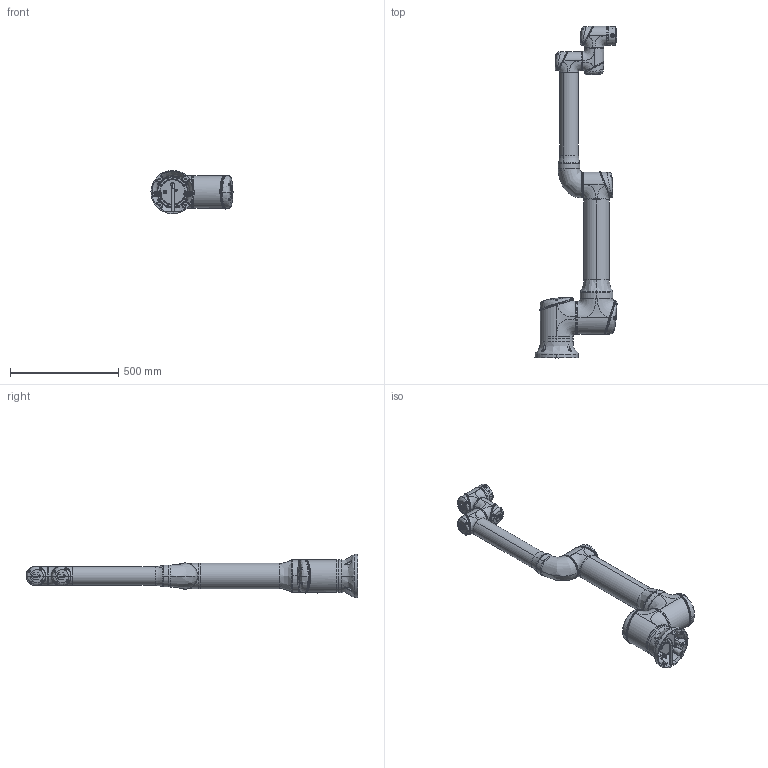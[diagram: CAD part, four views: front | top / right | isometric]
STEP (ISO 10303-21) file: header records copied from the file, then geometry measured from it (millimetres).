
FILE_DESCRIPTION (( 'STEP AP214' ), '1' );
FILE_NAME ('EC_掛极EC612_V1.2.STEP', '2023-05-17T05:54:42', ( '' ), ( '' ), 'SwSTEP 2.0', 'SolidWorks 2017', '' );
FILE_SCHEMA (( 'AUTOMOTIVE_DESIGN' ));
Length unit declared in the file: millimetre
Products named in the file (15): EC612-Base; EC612-Flange; EC612-Link2A_Link2B_J4; EC612-J6; EC612-J2_Link1_J3; EC612-J5; EC_掛极EC612_V1.2; EC612-J1
Assembly tree (7 placements, depth 2):
  EC612-Link2A_Link2B_J4
  EC612-J2_Link1_J3
  EC612-J5
  EC612-Flange
  EC_掛极EC612_V1.2
    EC612-Base
    EC612-J1
    EC612-J2_Link1_J3
    EC612-Link2A_Link2B_J4
    EC612-J5
    EC612-J6
    EC612-Flange
Bounding box: 379.09 x 1533.96 x 199.8 mm (x, y, z)
Volume: 22212021.4 mm3; surface area: 1255932.4 mm2
Topology: 22 solids, 55 shells, 3306 faces, 7642 edges, 4588 vertices
Faces by surface type: bspline 1565, plane 920, cylinder 559, cone 255, torus 7
Entity records: 265393 total; most frequent: CARTESIAN_POINT 181230, ORIENTED_EDGE 15140, DIRECTION 10030, EDGE_CURVE 7570, VERTEX_POINT 4588, AXIS2_PLACEMENT_3D 4013, EDGE_LOOP 3542, FACE_OUTER_BOUND 3306
